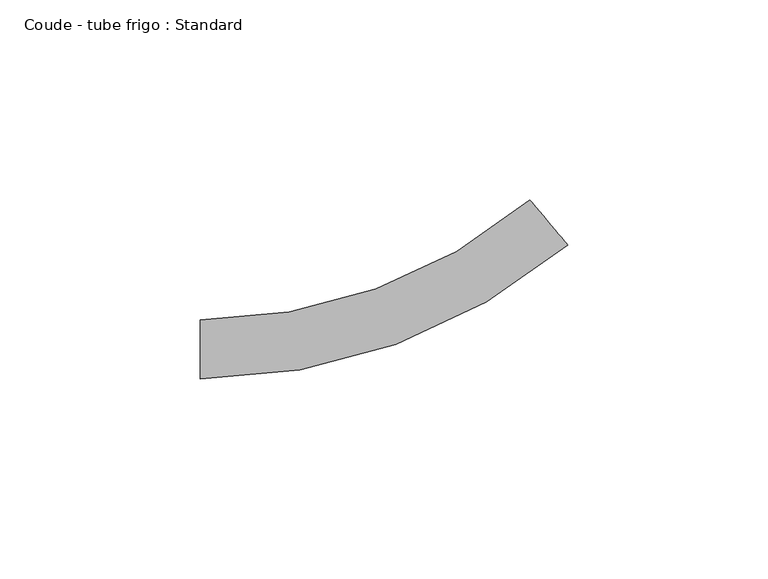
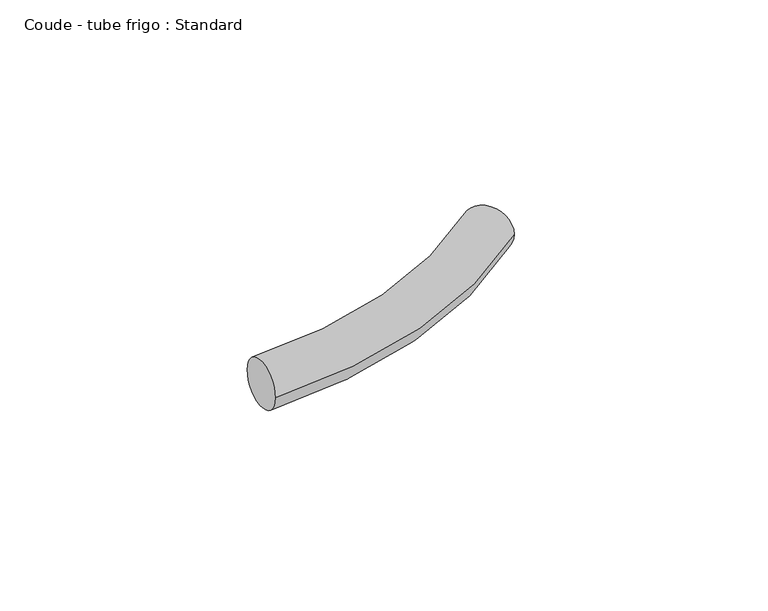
"""IFC4 building model written with IfcOpenShell, lengths in millimetres: pipe fitting geometry, Coude - tube frigo : Standard."""

from ifc_helpers import new_model, si_unit, point, frame, origin, place, context, project, spatial, circle_curve, ellipse_curve, trimmed, source, transform, mapped, element, save
from ifc_brep_helpers import plane_surface, revolved_surface, advanced_brep


def coude_tube_frigo_standard_a2edcbda(model_context):
    return source(origin(), model_context, "Body", "AdvancedBrep", [
        advanced_brep(
        [(-49.3, -7.35, 0.0), (-49.3, 7.35, 0.0), (42.4907889, 26.0584988, 0.0), (33.0419445, 37.3194642, 0.0)],
        [
            (0, 1, circle_curve(frame((-49.3, 0.0, 0.0), z_axis=(-1.0, 0.0, 0.0), x_axis=(0.0, 1.0, 0.0)), 7.35)),
            (1, 0, circle_curve(frame((-49.3, 0.0, 0.0), z_axis=(-1.0, 0.0, 0.0), x_axis=(0.0, 1.0, 0.0)), 7.35)),
            (2, 3, circle_curve(frame((37.7663667, 31.6889815, 0.0), z_axis=(0.7660520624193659, 0.6427785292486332, 0.0), x_axis=(-0.6427785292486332, 0.7660520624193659, 0.0)), 7.35)),
            (3, 2, circle_curve(frame((37.7663667, 31.6889815, 0.0), z_axis=(0.7660520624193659, 0.6427785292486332, 0.0), x_axis=(-0.6427785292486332, 0.7660520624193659, 0.0)), 7.35)),
            (3, 1, circle_curve(frame((-49.3, 135.4531347, 0.0), z_axis=(0.0, 0.0, -1.0), x_axis=(0.0, -1.0, 0.0)), 128.1031347)),
            (0, 2, circle_curve(frame((-49.3, 135.4531347, 0.0), z_axis=(0.0, 0.0, 1.0), x_axis=(0.0, -1.0, 0.0)), 142.8031347)),
        ],
        [
            plane_surface(frame((-49.3, 0.0, 0.0), z_axis=(-1.0, 0.0, 0.0), x_axis=(0.0, 0.0, 1.0))),
            plane_surface(frame((37.7663667, 31.6889815, 0.0), z_axis=(0.7660520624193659, 0.6427785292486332, 0.0), x_axis=(0.0, 0.0, 1.0))),
            revolved_surface(trimmed(ellipse_curve(frame((-49.3, 0.0, 0.0), z_axis=(-1.0, 0.0, 0.0), x_axis=(0.0, 1.0, 0.0)), 7.35, 7.35), [point((-49.3, -7.35, 0.0))], [point((-49.3, 7.35, 0.0))], True, "CARTESIAN"), (-49.3, 135.4531347, 0.0), (0.0, 0.0, 1.0)),
            revolved_surface(trimmed(ellipse_curve(frame((-49.3, 0.0, 0.0), z_axis=(-1.0, 0.0, 0.0), x_axis=(0.0, 1.0, 0.0)), 7.35, 7.35), [point((-49.3, 7.35, 0.0))], [point((-49.3, -7.35, 0.0))], True, "CARTESIAN"), (-49.3, 135.4531347, 0.0), (0.0, 0.0, 1.0)),
        ],
        [
            (0, [[1, 2]]),
            (1, [[3, 4]]),
            (2, [[5, -1, 6, -4]]),
            (3, [[-6, -2, -5, -3]]),
        ],
    ),
    ])


if __name__ == "__main__":
    model = new_model("IFC4")
    model_context = context("Model", 3, world=origin())
    ifc_project = project(units=[si_unit("LENGTHUNIT", "METRE", prefix="MILLI")], contexts=[model_context])
    site = spatial("IfcSite", under=ifc_project)
    building = spatial("IfcBuilding", under=site)
    placement = place(None, origin())
    coude_tube_frigo_standard_shape = coude_tube_frigo_standard_a2edcbda(model_context)
    element("IfcPipeFitting", 1, ObjectType="Coude - tube frigo : Standard", at=placement, inside=building, context=model_context, shape_type="MappedRepresentation", body=[
        mapped(coude_tube_frigo_standard_shape, transform((0.0, 0.0, 0.0), x_axis=(1.0, 0.0, 0.0), y_axis=(0.0, 1.0, 0.0), z_axis=(0.0, 0.0, 1.0))),
    ])
    save(model, "model.ifc")
